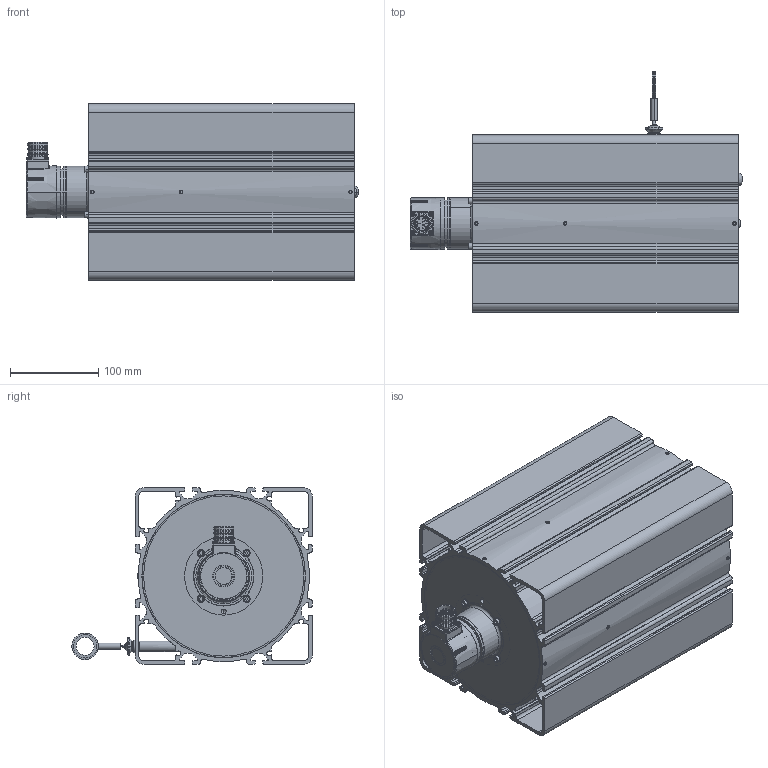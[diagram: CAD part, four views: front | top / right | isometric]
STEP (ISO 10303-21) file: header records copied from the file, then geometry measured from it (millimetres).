
FILE_DESCRIPTION((''),'2;1');
FILE_NAME('WDS-40000-P200-SR-SSI_02_ASM','2024-05-28T13:04:51',('15000597'),(''),'CREO PARAMETRIC BY PTC INC, 2022164','CREO PARAMETRIC BY PTC INC, 2022164','');
FILE_SCHEMA(('AUTOMOTIVE_DESIGN { 1 0 10303 214 1 1 1 1 }'));
Products named in the file (34): TELESO_SENZORU_40M_P200_AF0; HRIDEL_MOTORU_30-40M_P200_AF0; BOCNICE_VNEJSI_P200_AF0; LOZISKO_6000_10X26X8_AF1; PREDNI_STENA_P200_DIRA_S_POJIST_AF0; SROUB_ISO7380_COC_HEX_C_M5X10_AF0; TRUBKA_PRUCHODKY_P200_AF0; PRUCHODKA_P200; GUMOVY_VLNOVEC; STIRATKO_LANKO_FORMA_0I8; DUTY_NYT_A_3X10; GP_7I5X2I0X25_EXT_EPDM60; LANKO_7X7_0I63_0I8_AF0; OKO_LANKA_TRE; CU_HULSE_2X1I4X5_AF0; SPOJKA_GS5_PR6_2I1_AF0; KOLIK_PRUZNY_2X8_AF0; SROUB_ISO4026_STAV_HEX_M4X4; PRIRUBA_SYNCHRO_P96_P200_AF0; PODLOZKA_M4_VEJIROVA_AF1; PODLOZKA_M4_VEJIROVA_AF3; PODLOZKA_M4_VEJIROVA_AF4; PODLOZKA_M4_VEJIROVA_AF5; PODLOZKA_M4_VEJIROVA_AF6; SROUB_ISO4762_VALC_HEX_M4X6_AF0; SROUB_ISO4762_VALC_HEX_M4X6_AF1; SROUB_ISO4762_VALC_HEX_M4X6_AF2; SROUB_ISO4762_VALC_HEX_M4X6_AF3; SPOJKA_KRIZ_AF0; SPOJKA_GS5_PR6_AF0; SROUB_ISO4029_STAV_HEX_M3X3_AF0; SROUB_ISO7380_COC_HEX_M8X8_AF0; BAU_SYNCHRO_SSI_EN580EIML-SU06; WDS-40000-P200-SR-SSI_02_ASM
Assembly tree (44 placements, depth 2):
  WDS-40000-P200-SR-SSI_02_ASM
    TELESO_SENZORU_40M_P200_AF0
    HRIDEL_MOTORU_30-40M_P200_AF0
    BOCNICE_VNEJSI_P200_AF0
    LOZISKO_6000_10X26X8_AF1
    PREDNI_STENA_P200_DIRA_S_POJIST_AF0
    SROUB_ISO7380_COC_HEX_C_M5X10_AF0
    TRUBKA_PRUCHODKY_P200_AF0
    PRUCHODKA_P200
    GUMOVY_VLNOVEC
    STIRATKO_LANKO_FORMA_0I8
    DUTY_NYT_A_3X10
    GP_7I5X2I0X25_EXT_EPDM60
    LANKO_7X7_0I63_0I8_AF0
    OKO_LANKA_TRE
    CU_HULSE_2X1I4X5_AF0
    SPOJKA_GS5_PR6_2I1_AF0
    KOLIK_PRUZNY_2X8_AF0
    SROUB_ISO4026_STAV_HEX_M4X4  x12
    PRIRUBA_SYNCHRO_P96_P200_AF0
    PODLOZKA_M4_VEJIROVA_AF1
    PODLOZKA_M4_VEJIROVA_AF3
    PODLOZKA_M4_VEJIROVA_AF4
    PODLOZKA_M4_VEJIROVA_AF5
    PODLOZKA_M4_VEJIROVA_AF6
    SROUB_ISO4762_VALC_HEX_M4X6_AF0
    SROUB_ISO4762_VALC_HEX_M4X6_AF1
    SROUB_ISO4762_VALC_HEX_M4X6_AF2
    SROUB_ISO4762_VALC_HEX_M4X6_AF3
    SPOJKA_KRIZ_AF0
    SPOJKA_GS5_PR6_AF0
    SROUB_ISO4029_STAV_HEX_M3X3_AF0
    SROUB_ISO7380_COC_HEX_M8X8_AF0
    BAU_SYNCHRO_SSI_EN580EIML-SU06
Bounding box: 375.35 x 271.7 x 200 mm (x, y, z)
Volume: 1696486.1 mm3; surface area: 915985.9 mm2
Topology: 35 solids, 73 shells, 2729 faces, 7198 edges, 4661 vertices
Faces by surface type: plane 1102, cylinder 810, bspline 295, cone 269, torus 161, extrusion 50, sphere 22, revolution 20
Entity records: 134458 total; most frequent: CARTESIAN_POINT 51198, ORIENTED_EDGE 13314, DIRECTION 11952, EDGE_CURVE 6732, AXIS2_PLACEMENT_3D 4551, PRESENTATION_STYLE_ASSIGNMENT 4467, STYLED_ITEM 4467, VERTEX_POINT 4397
